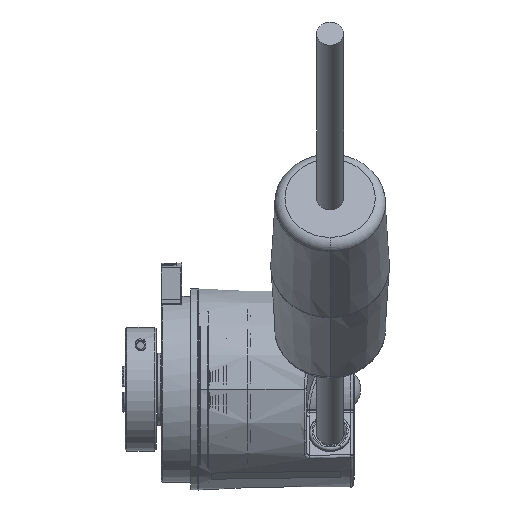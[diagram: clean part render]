
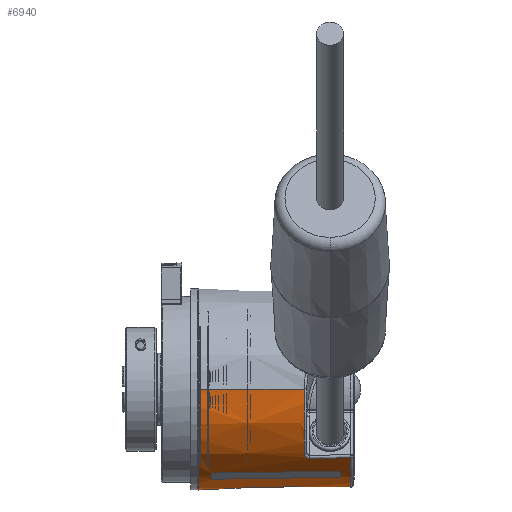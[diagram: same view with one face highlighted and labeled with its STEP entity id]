
A CAD part, front view. The second image highlights one B-rep face of the part: STEP entity #6940.
In plain terms, the highlighted conical face has half-angle 1 degrees and reference radius 18.976 mm.
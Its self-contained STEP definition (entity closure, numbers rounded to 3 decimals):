
#636 = VERTEX_POINT ( 'NONE', #13003 ) ;
#1023 = VERTEX_POINT ( 'NONE', #12514 ) ;
#2148 = DIRECTION ( 'NONE',  ( -1., 0., 0. ) ) ;
#2150 = DIRECTION ( 'NONE',  ( 0., -1., 0. ) ) ;
#2153 = CARTESIAN_POINT ( 'NONE',  ( 37.2, 0., 0. ) ) ;
#6940 = ADVANCED_FACE ( 'NONE', ( #7699, #7707 ), #7711, .T. ) ;
#7699 = FACE_OUTER_BOUND ( 'NONE', #47044, .T. ) ;
#7707 = FACE_BOUND ( 'NONE', #47039, .T. ) ;
#7711 = CONICAL_SURFACE ( 'NONE', #31860, 18.976, 0.017 ) ;
#9190 = VERTEX_POINT ( 'NONE', #20444 ) ;
#9245 = VERTEX_POINT ( 'NONE', #20499 ) ;
#9246 = VERTEX_POINT ( 'NONE', #20500 ) ;
#9318 = VERTEX_POINT ( 'NONE', #22874 ) ;
#9323 = VERTEX_POINT ( 'NONE', #22879 ) ;
#9325 = VERTEX_POINT ( 'NONE', #22881 ) ;
#9334 = VERTEX_POINT ( 'NONE', #22890 ) ;
#9335 = VERTEX_POINT ( 'NONE', #22891 ) ;
#9336 = VERTEX_POINT ( 'NONE', #22892 ) ;
#12147 = B_SPLINE_CURVE_WITH_KNOTS ( 'NONE', 3,
 ( #23908, #23918, #23931, #23932 ),
 .UNSPECIFIED., .F., .F.,
 ( 4, 4 ),
 ( 0., 0.025 ),
 .UNSPECIFIED. ) ;
#12153 = B_SPLINE_CURVE_WITH_KNOTS ( 'NONE', 3,
 ( #23943, #23944, #23950, #23951, #23952, #23953, #23954, #23955, #23956, #23957 ),
 .UNSPECIFIED., .F., .F.,
 ( 4, 2, 2, 2, 4 ),
 ( 0., 0., 0.001, 0.001, 0.002 ),
 .UNSPECIFIED. ) ;
#12417 = B_SPLINE_CURVE_WITH_KNOTS ( 'NONE', 3,
 ( #23894, #23889, #23909, #23910 ),
 .UNSPECIFIED., .F., .F.,
 ( 4, 4 ),
 ( 0., 0.025 ),
 .UNSPECIFIED. ) ;
#12455 = B_SPLINE_CURVE_WITH_KNOTS ( 'NONE', 3,
 ( #23948, #23949, #23960, #23961, #23962, #23963, #23964, #23965, #23966, #23967 ),
 .UNSPECIFIED., .F., .F.,
 ( 4, 3, 3, 4 ),
 ( 0., 0.001, 0.005, 0.008 ),
 .UNSPECIFIED. ) ;
#12514 = CARTESIAN_POINT ( 'NONE',  ( 36.709, 18.985, 0. ) ) ;
#13003 = CARTESIAN_POINT ( 'NONE',  ( 36.709, -13.586, -13.261 ) ) ;
#14255 = CARTESIAN_POINT ( 'NONE',  ( 37.2, -18.976, 0. ) ) ;
#14256 = DIRECTION ( 'NONE',  ( -1., -0.017, 0. ) ) ;
#14257 = DIRECTION ( 'NONE',  ( -1., 0.017, 0. ) ) ;
#14263 = CARTESIAN_POINT ( 'NONE',  ( 37.2, 18.976, 0. ) ) ;
#17950 = ORIENTED_EDGE ( 'NONE', *, *, #26065, .F. ) ;
#17951 = ORIENTED_EDGE ( 'NONE', *, *, #26067, .F. ) ;
#17952 = ORIENTED_EDGE ( 'NONE', *, *, #26069, .T. ) ;
#17953 = ORIENTED_EDGE ( 'NONE', *, *, #26071, .F. ) ;
#17954 = ORIENTED_EDGE ( 'NONE', *, *, #26073, .T. ) ;
#17955 = ORIENTED_EDGE ( 'NONE', *, *, #26105, .T. ) ;
#17956 = ORIENTED_EDGE ( 'NONE', *, *, #26075, .T. ) ;
#17957 = ORIENTED_EDGE ( 'NONE', *, *, #26077, .F. ) ;
#17958 = ORIENTED_EDGE ( 'NONE', *, *, #26078, .T. ) ;
#17959 = ORIENTED_EDGE ( 'NONE', *, *, #32560, .T. ) ;
#17960 = ORIENTED_EDGE ( 'NONE', *, *, #26109, .F. ) ;
#20444 = CARTESIAN_POINT ( 'NONE',  ( 27.709, -14.397, -12.615 ) ) ;
#20499 = CARTESIAN_POINT ( 'NONE',  ( 9.7, -8.68, -17.413 ) ) ;
#20500 = CARTESIAN_POINT ( 'NONE',  ( 27.709, -19.142, 0. ) ) ;
#21205 = CARTESIAN_POINT ( 'NONE',  ( 36.709, 0., 0. ) ) ;
#21206 = DIRECTION ( 'NONE',  ( -1., 0., 0. ) ) ;
#21207 = DIRECTION ( 'NONE',  ( 0., 1., 0. ) ) ;
#22874 = CARTESIAN_POINT ( 'NONE',  ( 9.7, -10.74, -16.224 ) ) ;
#22879 = CARTESIAN_POINT ( 'NONE',  ( 7.2, -19.5, 0. ) ) ;
#22881 = CARTESIAN_POINT ( 'NONE',  ( 34.7, -8.474, -17.028 ) ) ;
#22890 = CARTESIAN_POINT ( 'NONE',  ( 28.709, -13.658, -13.387 ) ) ;
#22891 = CARTESIAN_POINT ( 'NONE',  ( 7.2, 19.5, 0. ) ) ;
#22892 = CARTESIAN_POINT ( 'NONE',  ( 34.7, -10.51, -15.853 ) ) ;
#23889 = CARTESIAN_POINT ( 'NONE',  ( 18.033, -8.611, -17.284 ) ) ;
#23894 = CARTESIAN_POINT ( 'NONE',  ( 9.7, -8.68, -17.413 ) ) ;
#23895 = CARTESIAN_POINT ( 'NONE',  ( 9.7, 0., 0. ) ) ;
#23896 = DIRECTION ( 'NONE',  ( 1., 0., 0. ) ) ;
#23897 = DIRECTION ( 'NONE',  ( 0., -1., 0. ) ) ;
#23908 = CARTESIAN_POINT ( 'NONE',  ( 34.7, -10.51, -15.853 ) ) ;
#23909 = CARTESIAN_POINT ( 'NONE',  ( 26.367, -8.543, -17.156 ) ) ;
#23910 = CARTESIAN_POINT ( 'NONE',  ( 34.7, -8.474, -17.028 ) ) ;
#23915 = CARTESIAN_POINT ( 'NONE',  ( 34.7, 0., 0. ) ) ;
#23916 = DIRECTION ( 'NONE',  ( 1., 0., 0. ) ) ;
#23917 = DIRECTION ( 'NONE',  ( 0., -1., 0. ) ) ;
#23918 = CARTESIAN_POINT ( 'NONE',  ( 26.367, -10.586, -15.976 ) ) ;
#23931 = CARTESIAN_POINT ( 'NONE',  ( 18.033, -10.663, -16.1 ) ) ;
#23932 = CARTESIAN_POINT ( 'NONE',  ( 9.7, -10.74, -16.224 ) ) ;
#23935 = CARTESIAN_POINT ( 'NONE',  ( 7.2, 0., 0. ) ) ;
#23936 = DIRECTION ( 'NONE',  ( 1., 0., 0. ) ) ;
#23937 = DIRECTION ( 'NONE',  ( 0., 1., 0. ) ) ;
#23943 = CARTESIAN_POINT ( 'NONE',  ( 27.709, -14.397, -12.615 ) ) ;
#23944 = CARTESIAN_POINT ( 'NONE',  ( 27.709, -14.307, -12.718 ) ) ;
#23945 = CARTESIAN_POINT ( 'NONE',  ( 27.709, 0., 0. ) ) ;
#23946 = DIRECTION ( 'NONE',  ( -1., 0., 0. ) ) ;
#23947 = DIRECTION ( 'NONE',  ( 0., 1., 0. ) ) ;
#23948 = CARTESIAN_POINT ( 'NONE',  ( 36.709, -13.586, -13.261 ) ) ;
#23949 = CARTESIAN_POINT ( 'NONE',  ( 36.375, -13.589, -13.266 ) ) ;
#23950 = CARTESIAN_POINT ( 'NONE',  ( 27.733, -14.216, -12.819 ) ) ;
#23951 = CARTESIAN_POINT ( 'NONE',  ( 27.827, -14.044, -13.005 ) ) ;
#23952 = CARTESIAN_POINT ( 'NONE',  ( 27.898, -13.961, -13.091 ) ) ;
#23953 = CARTESIAN_POINT ( 'NONE',  ( 28.079, -13.821, -13.235 ) ) ;
#23954 = CARTESIAN_POINT ( 'NONE',  ( 28.19, -13.762, -13.293 ) ) ;
#23955 = CARTESIAN_POINT ( 'NONE',  ( 28.437, -13.681, -13.37 ) ) ;
#23956 = CARTESIAN_POINT ( 'NONE',  ( 28.572, -13.659, -13.389 ) ) ;
#23957 = CARTESIAN_POINT ( 'NONE',  ( 28.709, -13.658, -13.387 ) ) ;
#23960 = CARTESIAN_POINT ( 'NONE',  ( 36.042, -13.592, -13.271 ) ) ;
#23961 = CARTESIAN_POINT ( 'NONE',  ( 35.709, -13.595, -13.277 ) ) ;
#23962 = CARTESIAN_POINT ( 'NONE',  ( 34.376, -13.607, -13.298 ) ) ;
#23963 = CARTESIAN_POINT ( 'NONE',  ( 33.043, -13.619, -13.319 ) ) ;
#23964 = CARTESIAN_POINT ( 'NONE',  ( 31.71, -13.631, -13.34 ) ) ;
#23965 = CARTESIAN_POINT ( 'NONE',  ( 30.709, -13.64, -13.356 ) ) ;
#23966 = CARTESIAN_POINT ( 'NONE',  ( 29.709, -13.649, -13.371 ) ) ;
#23967 = CARTESIAN_POINT ( 'NONE',  ( 28.709, -13.658, -13.387 ) ) ;
#24342 = AXIS2_PLACEMENT_3D ( 'NONE', #23895, #23896, #23897 ) ;
#24343 = AXIS2_PLACEMENT_3D ( 'NONE', #23915, #23916, #23917 ) ;
#24344 = AXIS2_PLACEMENT_3D ( 'NONE', #23935, #23936, #23937 ) ;
#24346 = AXIS2_PLACEMENT_3D ( 'NONE', #23945, #23946, #23947 ) ;
#24592 = AXIS2_PLACEMENT_3D ( 'NONE', #21205, #21206, #21207 ) ;
#26065 = EDGE_CURVE ( 'NONE', #9318, #9245, #40461, .T. ) ;
#26067 = EDGE_CURVE ( 'NONE', #9245, #9325, #12417, .T. ) ;
#26069 = EDGE_CURVE ( 'NONE', #9336, #9325, #40462, .T. ) ;
#26071 = EDGE_CURVE ( 'NONE', #9336, #9318, #12147, .T. ) ;
#26073 = EDGE_CURVE ( 'NONE', #9323, #9335, #40465, .T. ) ;
#26075 = EDGE_CURVE ( 'NONE', #9190, #9246, #40469, .T. ) ;
#26077 = EDGE_CURVE ( 'NONE', #9190, #9334, #12153, .T. ) ;
#26078 = EDGE_CURVE ( 'NONE', #636, #9334, #12455, .T. ) ;
#26105 = EDGE_CURVE ( 'NONE', #9246, #9323, #40501, .T. ) ;
#26109 = EDGE_CURVE ( 'NONE', #1023, #9335, #40498, .T. ) ;
#31860 = AXIS2_PLACEMENT_3D ( 'NONE', #2153, #2148, #2150 ) ;
#32560 = EDGE_CURVE ( 'NONE', #1023, #636, #40927, .T. ) ;
#40461 = CIRCLE ( 'NONE', #24342, 19.456 ) ;
#40462 = CIRCLE ( 'NONE', #24343, 19.02 ) ;
#40465 = CIRCLE ( 'NONE', #24344, 19.5 ) ;
#40469 = CIRCLE ( 'NONE', #24346, 19.142 ) ;
#40498 = LINE ( 'NONE', #14263, #40508 ) ;
#40501 = LINE ( 'NONE', #14255, #40502 ) ;
#40502 = VECTOR ( 'NONE', #14256, 1000. ) ;
#40508 = VECTOR ( 'NONE', #14257, 1000. ) ;
#40927 = CIRCLE ( 'NONE', #24592, 18.985 ) ;
#47039 = EDGE_LOOP ( 'NONE', ( #17953, #17952, #17951, #17950 ) ) ;
#47044 = EDGE_LOOP ( 'NONE', ( #17960, #17959, #17958, #17957, #17956, #17955, #17954 ) ) ;
